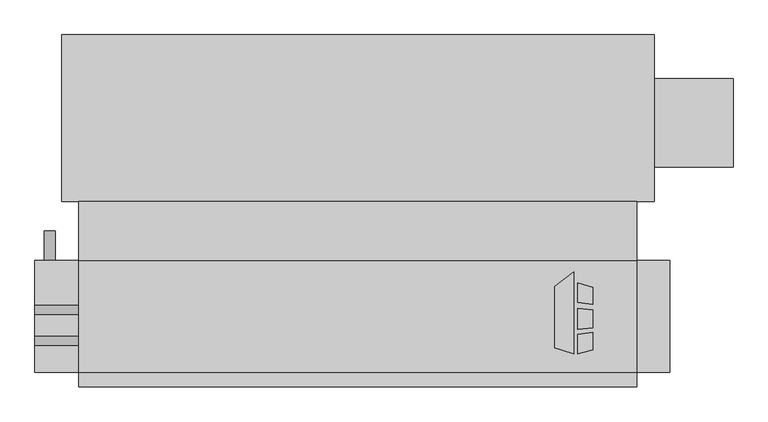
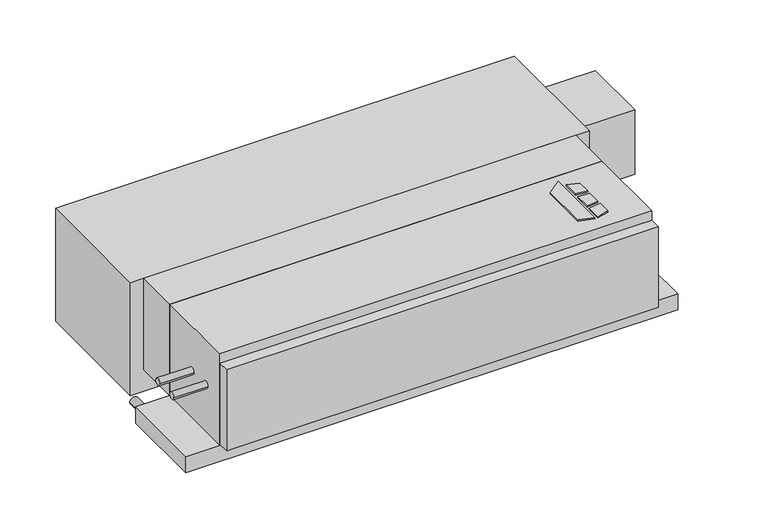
"""IFC4 building model written with IfcOpenShell, lengths in millimetres: proxy geometry, Concealed_Horizontal_Fan_Coil_Unit_With_Plenum_-_CPY_-_IEC_-_2-Pipe_Cool-EHeat_LH_2022 : Size 08 - 277v/60Hz/1Ph - 4 Row 6.0kW."""

import ifcopenshell
import ifcopenshell.guid

model = None  # the IFC model being written
_history = None  # IfcOwnerHistory: only IFC2X3 demands one
_inside = {}  # id of a spatial element -> (the spatial element, [elements in it])
_under = {}  # id of a project, library or spatial element -> (it, [spatial elements below it])
_declared = {}  # id of a project -> (the project, [libraries it declares])
_typed = {}  # id of a type object -> (the type object, [elements of that type])
_made_of = {}  # id of a material, layer set ... -> (it, [elements and type objects made of it])


def new_model(schema):
    """Start an empty IFC model of exactly this schema.

    Asked for "IFC4X3", IfcOpenShell would pick the latest addendum, in which some entities
    have other attributes; the version numbers below select the first issue.
    IFC2X3 requires an IfcOwnerHistory on every rooted entity: one is made here for all.
    """
    global model, _history
    if schema == "IFC4X3":
        model = ifcopenshell.file(schema_version=(4, 3, 0, 0))
    else:
        model = ifcopenshell.file(schema=schema)
    _inside.clear()
    _under.clear()
    _declared.clear()
    _typed.clear()
    _made_of.clear()
    _history = None
    if model.schema == "IFC2X3":
        org = make("IfcOrganization", Name="unknown")
        user = make(
            "IfcPersonAndOrganization",
            ThePerson=make("IfcPerson", FamilyName="unknown"),
            TheOrganization=org,
        )
        app = make(
            "IfcApplication",
            ApplicationDeveloper=org,
            Version="unknown",
            ApplicationFullName="unknown",
            ApplicationIdentifier="unknown",
        )
        _history = make(
            "IfcOwnerHistory",
            OwningUser=user,
            OwningApplication=app,
            ChangeAction="ADDED",
            CreationDate=0,
        )
    return model


def make(cls, **values):
    """One entity of the class cls with the attributes given. An attribute that is None is left unset."""
    return model.create_entity(
        cls, **{name: value for name, value in values.items() if value is not None}
    )


def rooted(cls, **values):
    """An entity with a GlobalId (a new one), such as an element, a storey or a relation."""
    return make(cls, GlobalId=ifcopenshell.guid.new(), OwnerHistory=_history, **values)


def si_unit(unit_type, name, prefix=None):
    """IfcSIUnit, for example si_unit("LENGTHUNIT", "METRE", prefix="MILLI")."""
    return make("IfcSIUnit", UnitType=unit_type, Prefix=prefix, Name=name)


def assignment(units):
    """IfcUnitAssignment: the units of a project."""
    return None if units is None else make("IfcUnitAssignment", Units=units)


def point(xyz):
    """IfcCartesianPoint."""
    return None if xyz is None else make("IfcCartesianPoint", Coordinates=xyz)


def direction(xyz):
    """IfcDirection."""
    return None if xyz is None else make("IfcDirection", DirectionRatios=xyz)


def frame(location, z_axis=None, x_axis=None):
    """IfcAxis2Placement3D, a coordinate frame: its origin and axes. An axis left out is left unset."""
    return make(
        "IfcAxis2Placement3D",
        Location=point(location),
        Axis=direction(z_axis),
        RefDirection=direction(x_axis),
    )


def frame_2d(location, x_axis=None):
    """IfcAxis2Placement2D, a coordinate frame in the plane: its origin and x axis."""
    return make(
        "IfcAxis2Placement2D", Location=point(location), RefDirection=direction(x_axis)
    )


def origin():
    """The frame at (0, 0, 0) with its axes left unset."""
    return frame((0.0, 0.0, 0.0))


def origin_with_axes():
    """The frame at (0, 0, 0) with the z axis (0, 0, 1) and the x axis (1, 0, 0) written out."""
    return frame((0.0, 0.0, 0.0), z_axis=(0.0, 0.0, 1.0), x_axis=(1.0, 0.0, 0.0))


def place(relative_to, where):
    """IfcLocalPlacement: puts the frame where relative to a parent placement (None: the world)."""
    return make(
        "IfcLocalPlacement", PlacementRelTo=relative_to, RelativePlacement=where
    )


def context(
    kind, dimensions, precision=None, world=None, true_north=None, identifier=None
):
    """IfcGeometricRepresentationContext, for example the 3D "Model" context."""
    return make(
        "IfcGeometricRepresentationContext",
        ContextIdentifier=identifier,
        ContextType=kind,
        CoordinateSpaceDimension=dimensions,
        Precision=precision,
        WorldCoordinateSystem=world,
        TrueNorth=true_north,
    )


def project(units=None, contexts=None):
    """IfcProject with its units and contexts."""
    return rooted(
        "IfcProject",
        Name="project",
        RepresentationContexts=contexts,
        UnitsInContext=assignment(units),
    )


def spatial(cls, under=None, at=None, **own):
    """A site, building, storey or space (cls), placed at a placement, below another one or the project."""
    s = rooted(cls, ObjectPlacement=at, **own)
    if under is not None:
        _under.setdefault(under.id(), (under, []))[1].append(s)
    return s


def polyline(points):
    """IfcPolyline through the points."""
    return make("IfcPolyline", Points=[point(p) for p in points])


def circle_curve(where, radius):
    """IfcCircle in the frame where."""
    return make("IfcCircle", Position=where, Radius=radius)


def trimmed(basis, trim1, trim2, sense, master):
    """IfcTrimmedCurve: the piece of a basis curve between two trims."""
    return make(
        "IfcTrimmedCurve",
        BasisCurve=basis,
        Trim1=trim1,
        Trim2=trim2,
        SenseAgreement=sense,
        MasterRepresentation=master,
    )


def segment(curve, same_sense, transition):
    """IfcCompositeCurveSegment."""
    return make(
        "IfcCompositeCurveSegment",
        Transition=transition,
        SameSense=same_sense,
        ParentCurve=curve,
    )


def composite_curve(segments, self_intersect=None):
    """IfcCompositeCurve: segments joined end to end."""
    return make("IfcCompositeCurve", Segments=segments, SelfIntersect=self_intersect)


def outline(outer, holes=None, kind="AREA"):
    """IfcArbitraryClosedProfileDef: a profile drawn as a closed curve; with holes, ...WithVoids."""
    if holes is None:
        return make("IfcArbitraryClosedProfileDef", ProfileType=kind, OuterCurve=outer)
    return make(
        "IfcArbitraryProfileDefWithVoids",
        ProfileType=kind,
        OuterCurve=outer,
        InnerCurves=holes,
    )


def extrude(swept, where, along, depth):
    """IfcExtrudedAreaSolid: the profile swept, set in the frame where, extruded along a direction by depth."""
    return make(
        "IfcExtrudedAreaSolid",
        SweptArea=swept,
        Position=where,
        ExtrudedDirection=direction(along),
        Depth=depth,
    )


def shape(context_of_items, identifier, shape_type, items):
    """IfcShapeRepresentation: the items that make up one representation, for example the "Body"."""
    return make(
        "IfcShapeRepresentation",
        ContextOfItems=context_of_items,
        RepresentationIdentifier=identifier,
        RepresentationType=shape_type,
        Items=items,
    )


def source(mapping_origin, context_of_items, identifier, shape_type, items):
    """IfcRepresentationMap: a shape defined once, which mapped items show again and again."""
    return make(
        "IfcRepresentationMap",
        MappingOrigin=mapping_origin,
        MappedRepresentation=shape(context_of_items, identifier, shape_type, items),
    )


def transform(
    local_origin,
    x_axis=None,
    y_axis=None,
    z_axis=None,
    scale=None,
    scale2=None,
    scale3=None,
    uniform=True,
):
    """IfcCartesianTransformationOperator3D, or its non-uniform kind. x_axis, y_axis, z_axis: its Axis1, 2, 3."""
    if uniform:
        return make(
            "IfcCartesianTransformationOperator3D",
            Axis1=direction(x_axis),
            Axis2=direction(y_axis),
            LocalOrigin=point(local_origin),
            Scale=scale,
            Axis3=direction(z_axis),
        )
    return make(
        "IfcCartesianTransformationOperator3DnonUniform",
        Axis1=direction(x_axis),
        Axis2=direction(y_axis),
        LocalOrigin=point(local_origin),
        Scale=scale,
        Axis3=direction(z_axis),
        Scale2=scale2,
        Scale3=scale3,
    )


def mapped(mapping_source, mapping_target):
    """IfcMappedItem: shows the shape of a source again, moved by a transform."""
    return make(
        "IfcMappedItem", MappingSource=mapping_source, MappingTarget=mapping_target
    )


def made_of(thing, what):
    """Note that an element or type object is made of a material, layer set ...; save() writes the relation."""
    if what is not None:
        _made_of.setdefault(what.id(), (what, []))[1].append(thing)
    return thing


def element(
    cls,
    number,
    at=None,
    inside=None,
    cuts=None,
    type_object=None,
    material=None,
    context=None,
    identifier="Body",
    shape_type=None,
    held_by="IfcProductDefinitionShape",
    body=None,
    shapes=None,
    **own,
):
    """One element of the class cls, such as IfcWall. Its Tag is "e" and its number.

    at: its placement. inside: the storey or other place that contains it. cuts: it is an
    opening in that element (IfcRelVoidsElement). A single representation is given by context,
    identifier, shape_type and body (its items); several are given by shapes. held_by: the class
    of the entity that holds the representations. save() writes the other relations.
    """
    e = rooted(cls, Tag="e%d" % number, ObjectPlacement=at, **own)
    if body is not None:
        shapes = [shape(context, identifier, shape_type, body)]
    if shapes is not None:
        e.Representation = make(held_by, Representations=shapes)
    if inside is not None:
        _inside.setdefault(inside.id(), (inside, []))[1].append(e)
    if cuts is not None:
        rooted(
            "IfcRelVoidsElement", RelatingBuildingElement=cuts, RelatedOpeningElement=e
        )
    if type_object is not None:
        _typed.setdefault(type_object.id(), (type_object, []))[1].append(e)
    return made_of(e, material)


def aggregate(whole, parts):
    """IfcRelAggregates: a whole, such as a stair, and the parts it consists of."""
    return rooted("IfcRelAggregates", RelatingObject=whole, RelatedObjects=parts)


def save(model, path):
    """Write the relations noted so far, then the file.

    IfcRelAggregates (storeys below a building ...), IfcRelContainedInSpatialStructure (elements
    in a storey), IfcRelDefinesByType, IfcRelAssociatesMaterial and IfcRelDeclares: one each for
    every whole, place, type object, material and project.
    """
    for whole, parts in _under.values():
        aggregate(whole, parts)
    for where, things in _inside.values():
        rooted(
            "IfcRelContainedInSpatialStructure",
            RelatedElements=things,
            RelatingStructure=where,
        )
    for kind, things in _typed.values():
        rooted("IfcRelDefinesByType", RelatedObjects=things, RelatingType=kind)
    for what, things in _made_of.values():
        rooted("IfcRelAssociatesMaterial", RelatedObjects=things, RelatingMaterial=what)
    for by, libraries in _declared.values():
        rooted("IfcRelDeclares", RelatingContext=by, RelatedDefinitions=libraries)
    model.write(path)


def mechanical_equipment_c43f2619(model_context):
    return source(origin(), model_context, "Body", "SweptSolid", [
        extrude(outline(polyline([(493.4019761, -186.6953476), (525.9602728, -161.2580184), (525.9602728, -303.2125), (493.4019761, -292.9929201), (493.4019761, -186.6953476)])), origin_with_axes(), (0.0, 0.0, 1.0), 3.175),
        extrude(outline(polyline([(532.7186058, -214.567352), (532.7186058, -180.0874379), (558.8, -188.2740115), (558.8, -217.7697446), (532.7186058, -214.567352)])), origin_with_axes(), (0.0, 0.0, 1.0), 3.175),
        extrude(outline(polyline([(558.8, -296.2240115), (532.7186058, -303.2125), (532.7186058, -269.9911996), (558.8, -266.4493564), (558.8, -296.2240115)])), origin_with_axes(), (0.0, 0.0, 1.0), 3.175),
        extrude(outline(polyline([(558.8, -226.8513277), (558.8, -258.101483), (532.7186058, -260.842748), (532.7186058, -224.9850378), (558.8, -226.8513277)])), origin_with_axes(), (0.0, 0.0, 1.0), 3.175),
        extrude(outline(composite_curve([segment(trimmed(circle_curve(frame_2d((-280.9875, -104.775)), 7.9375), [point((-288.925, -104.775))], [point((-273.05, -104.775))], False, "CARTESIAN"), True, "CONTINUOUS"), segment(trimmed(circle_curve(frame_2d((-280.9875, -104.775)), 7.9375), [point((-273.05, -104.775))], [point((-288.925, -104.775))], False, "CARTESIAN"), True, "CONTINUOUS")], self_intersect=False)), frame((-406.4, 0.0, 0.0), z_axis=(1.0, 0.0, 0.0), x_axis=(0.0, 1.0, 0.0)), (0.0, 0.0, 1.0), 76.2),
        extrude(outline(composite_curve([segment(trimmed(circle_curve(frame_2d((-227.0125, -104.775)), 7.9375), [point((-234.95, -104.775))], [point((-219.075, -104.775))], False, "CARTESIAN"), True, "CONTINUOUS"), segment(trimmed(circle_curve(frame_2d((-227.0125, -104.775)), 7.9375), [point((-219.075, -104.775))], [point((-234.95, -104.775))], False, "CARTESIAN"), True, "CONTINUOUS")], self_intersect=False)), frame((-406.4, 0.0, 0.0), z_axis=(1.0, 0.0, 0.0), x_axis=(0.0, 1.0, 0.0)), (0.0, 0.0, 1.0), 76.2),
        extrude(outline(composite_curve([segment(trimmed(circle_curve(frame_2d((-241.3, -381.0)), 9.525), [point((-241.3, -390.525))], [point((-241.3, -371.475))], False, "CARTESIAN"), True, "CONTINUOUS"), segment(trimmed(circle_curve(frame_2d((-241.3, -381.0)), 9.525), [point((-241.3, -371.475))], [point((-241.3, -390.525))], False, "CARTESIAN"), True, "CONTINUOUS")], self_intersect=False)), frame((0.0, -141.2875, 0.0), z_axis=(0.0, 1.0, 0.0), x_axis=(0.0, 0.0, 1.0)), (0.0, 0.0, 1.0), 50.8),
        extrude(outline(polyline([(-330.2, -39.6875), (635.0, -39.6875), (635.0, -141.2875), (-330.2, -141.2875), (-330.2, -39.6875)])), frame((0.0, 0.0, -215.9), z_axis=(0.0, 0.0, 1.0), x_axis=(1.0, 0.0, 0.0)), (0.0, 0.0, 1.0), 215.9),
        extrude(outline(polyline([(635.0, -360.3625), (-330.2, -360.3625), (-330.2, -334.9625), (635.0, -334.9625), (635.0, -360.3625)])), frame((0.0, 0.0, -212.725), z_axis=(0.0, 0.0, 1.0), x_axis=(1.0, 0.0, 0.0)), (0.0, 0.0, 1.0), 190.5),
        extrude(outline(polyline([(801.6875, 173.0375), (801.6875, 20.6375), (665.1625, 20.6375), (665.1625, 173.0375), (801.6875, 173.0375)])), frame((0.0, 0.0, -187.325), z_axis=(0.0, 0.0, 1.0), x_axis=(1.0, 0.0, 0.0)), (0.0, 0.0, 1.0), 152.4),
        extrude(outline(polyline([(-360.3625, 249.2375), (665.1625, 249.2375), (665.1625, -39.6875), (-360.3625, -39.6875), (-360.3625, 249.2375)])), frame((0.0, 0.0, -266.7), z_axis=(0.0, 0.0, 1.0), x_axis=(1.0, 0.0, 0.0)), (0.0, 0.0, 1.0), 266.7),
        extrude(outline(polyline([(635.0, -141.2875), (635.0, -334.9625), (-330.2, -334.9625), (-330.2, -141.2875), (635.0, -141.2875)])), frame((0.0, 0.0, -215.9), z_axis=(0.0, 0.0, 1.0), x_axis=(1.0, 0.0, 0.0)), (0.0, 0.0, 1.0), 215.9),
        extrude(outline(polyline([(692.15, -141.2875), (692.15, -334.9625), (-406.4, -334.9625), (-406.4, -141.2875), (692.15, -141.2875)])), frame((0.0, 0.0, -254.0), z_axis=(0.0, 0.0, 1.0), x_axis=(1.0, 0.0, 0.0)), (0.0, 0.0, 1.0), 38.1),
    ])


if __name__ == "__main__":
    model = new_model("IFC4")
    model_context = context("Model", 3, world=origin())
    ifc_project = project(units=[si_unit("LENGTHUNIT", "METRE", prefix="MILLI")], contexts=[model_context])
    site = spatial("IfcSite", under=ifc_project)
    building = spatial("IfcBuilding", under=site)
    placement = place(None, origin())
    mechanical_equipment_shape = mechanical_equipment_c43f2619(model_context)
    element("IfcBuildingElementProxy", 1, Name="Concealed_Horizontal_Fan_Coil_Unit_With_Plenum_-_CPY_-_IEC_-_2-Pipe_Cool-EHeat_LH_2022 : Size 08 - 277v/60Hz/1Ph - 4 Row 6.0kW", ObjectType="Concealed_Horizontal_Fan_Coil_Unit_With_Plenum_-_CPY_-_IEC_-_2-Pipe_Cool-EHeat_LH_2022 : Size 08 - 277v/60Hz/1Ph - 4 Row 6.0kW", at=placement, inside=building, context=model_context, shape_type="MappedRepresentation", body=[
        mapped(mechanical_equipment_shape, transform((0.0, 0.0, 0.0), x_axis=(1.0, 0.0, 0.0), y_axis=(0.0, 1.0, 0.0), z_axis=(0.0, 0.0, 1.0))),
    ])
    save(model, "model.ifc")
